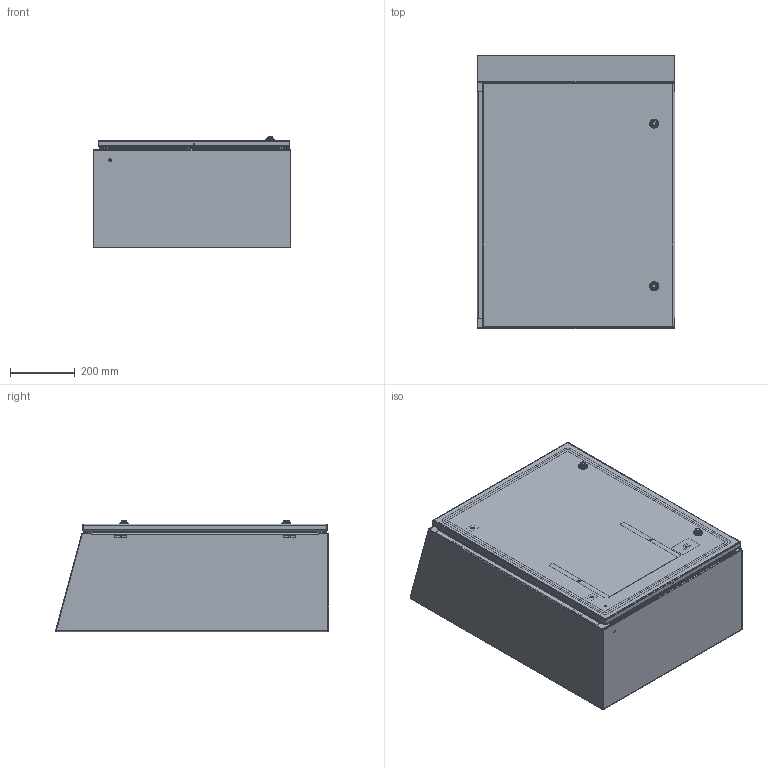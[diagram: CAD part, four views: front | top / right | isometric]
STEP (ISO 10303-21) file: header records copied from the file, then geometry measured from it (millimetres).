
FILE_DESCRIPTION((''),'2;1');
FILE_NAME('MODEL-443_ASM','2026-06-15T12:43:35',('joshi'),('SAGINAW CONTROL & ENGINEERING'),'CREO PARAMETRIC BY PTC INC, 2021284','CREO PARAMETRIC BY PTC INC, 2021284','');
FILE_SCHEMA(('AUTOMOTIVE_DESIGN { 1 0 10303 214 1 1 1 1 }'));
Length unit declared in the file: inch
Products named in the file (31): MODEL-443-BDY; MODEL-443-TP; MODEL-443-BTM; MODEL-443-DR; 100837; 100882; 111267; 116397_SHAFT; 116397_NUT; 116397_INSERT; 116397_SCREW; 116397_OUTER_O-RING; 116397_SUBASSEMBLY_ASM; 116397_CAM; 116397_INNER_O-RING; 116397_ASM; 129123; 129137; 129137_ASM; 101226; 102483; MODEL-443-DOOR-GASKET; 129279; 125597; MODEL-443-DOOR-ASSY_ASM; 101653; 122191; SUBPANEL; 100904; SUBPANEL-SUBASSEMBLY_ASM; MODEL-443_ASM
Assembly tree (51 placements, depth 5):
  MODEL-443_ASM
    MODEL-443-BDY
    MODEL-443-TP
    MODEL-443-BTM
    MODEL-443-DOOR-ASSY_ASM
      MODEL-443-DR
      100837  x5
      100882  x4
      111267
      116397_ASM  x2
        116397_SUBASSEMBLY_ASM
          116397_SHAFT
          116397_NUT
          116397_INSERT
          116397_SCREW
          116397_OUTER_O-RING
        116397_CAM
        116397_INNER_O-RING
      129123  x2
      129137_ASM  x2
        129137
      101226  x2
      102483  x4
      MODEL-443-DOOR-GASKET
      129279
      125597
    100837
    101653  x4
    122191
    SUBPANEL-SUBASSEMBLY_ASM
      SUBPANEL
      100904  x4
Bounding box: 609.6 x 842.71 x 345.41 mm (x, y, z)
Volume: 6041915.3 mm3; surface area: 5459446.6 mm2
Topology: 53 solids, 53 shells, 3400 faces, 8515 edges, 5258 vertices
Faces by surface type: plane 1238, bspline 802, cylinder 799, torus 320, cone 138, sphere 52, extrusion 39, revolution 12
Entity records: 96956 total; most frequent: CARTESIAN_POINT 38067, ORIENTED_EDGE 8704, DIRECTION 8140, PRESENTATION_STYLE_ASSIGNMENT 4427, STYLED_ITEM 4425, EDGE_CURVE 4352, CURVE_STYLE 4346, AXIS2_PLACEMENT_3D 3026
